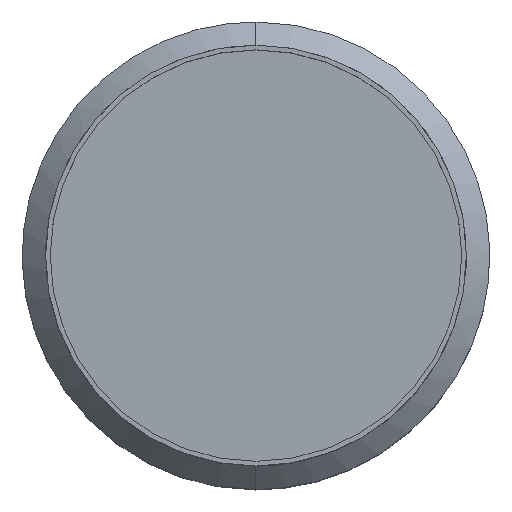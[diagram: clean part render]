
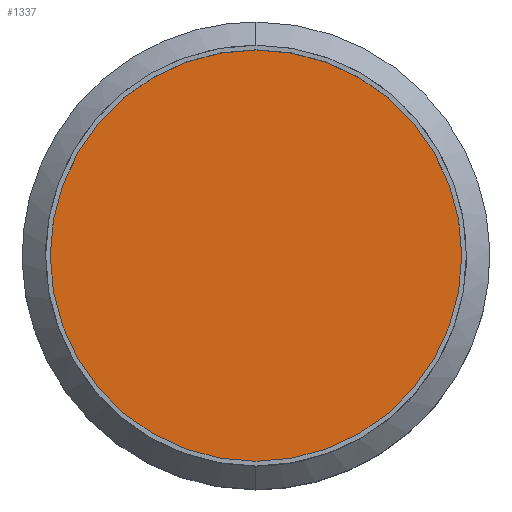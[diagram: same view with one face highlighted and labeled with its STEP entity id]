
A CAD part, top view. The second image highlights one B-rep face of the part: STEP entity #1337.
In plain terms, the highlighted planar face has unit normal (0, 0, 1).
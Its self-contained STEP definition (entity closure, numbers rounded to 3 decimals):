
#4 = DIRECTION ( 'NONE',  ( 1., 0., 0. ) ) ;
#87 = CARTESIAN_POINT ( 'NONE',  ( 309., -168., 346.5 ) ) ;
#89 = CARTESIAN_POINT ( 'NONE',  ( 353., -168., 346.5 ) ) ;
#133 = CARTESIAN_POINT ( 'NONE',  ( 309., -168., 346.5 ) ) ;
#378 = CARTESIAN_POINT ( 'NONE',  ( 265., -168., 346.5 ) ) ;
#383 = VERTEX_POINT ( 'NONE', #378 ) ;
#388 = DIRECTION ( 'NONE',  ( 0., 0., 1. ) ) ;
#428 = ORIENTED_EDGE ( 'NONE', *, *, #730, .T. ) ;
#492 = DIRECTION ( 'NONE',  ( 1., 0., 0. ) ) ;
#567 = DIRECTION ( 'NONE',  ( 0., 0., 1. ) ) ;
#626 = VERTEX_POINT ( 'NONE', #89 ) ;
#637 = EDGE_LOOP ( 'NONE', ( #428, #1082 ) ) ;
#686 = PLANE ( 'NONE',  #788 ) ;
#730 = EDGE_CURVE ( 'NONE', #383, #626, #1014, .T. ) ;
#788 = AXIS2_PLACEMENT_3D ( 'NONE', #87, #567, #1284 ) ;
#840 = CARTESIAN_POINT ( 'NONE',  ( 309., -168., 346.5 ) ) ;
#861 = CIRCLE ( 'NONE', #1272, 44. ) ;
#1014 = CIRCLE ( 'NONE', #1139, 44. ) ;
#1082 = ORIENTED_EDGE ( 'NONE', *, *, #1581, .T. ) ;
#1139 = AXIS2_PLACEMENT_3D ( 'NONE', #133, #388, #492 ) ;
#1166 = FACE_OUTER_BOUND ( 'NONE', #637, .T. ) ;
#1220 = DIRECTION ( 'NONE',  ( 0., 0., 1. ) ) ;
#1272 = AXIS2_PLACEMENT_3D ( 'NONE', #840, #1220, #4 ) ;
#1284 = DIRECTION ( 'NONE',  ( 1., 0., 0. ) ) ;
#1337 = ADVANCED_FACE ( 'NONE', ( #1166 ), #686, .T. ) ;
#1581 = EDGE_CURVE ( 'NONE', #626, #383, #861, .T. ) ;
